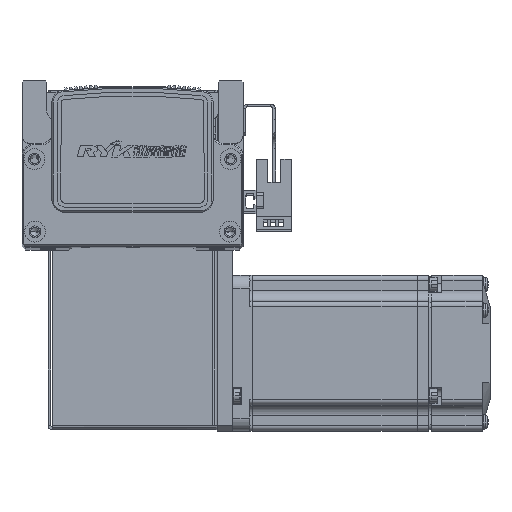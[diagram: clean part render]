
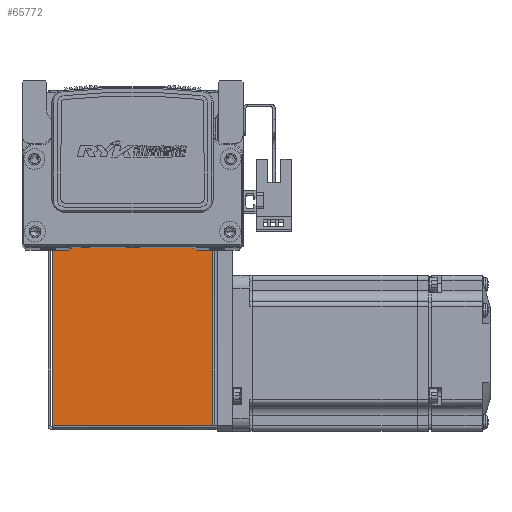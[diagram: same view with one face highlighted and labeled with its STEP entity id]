
A CAD part, top view. The second image highlights one B-rep face of the part: STEP entity #65772.
In plain terms, the highlighted planar face has unit normal (0, 0, 1).
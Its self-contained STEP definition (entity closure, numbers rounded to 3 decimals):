
#11635 = AXIS2_PLACEMENT_3D ( 'NONE', #55645, #55630, #55619 ) ;
#12747 = CARTESIAN_POINT ( 'NONE',  ( 30.763, 0.737, 35. ) ) ;
#12775 = DIRECTION ( 'NONE',  ( 0., 1., 0. ) ) ;
#12819 = CARTESIAN_POINT ( 'NONE',  ( -30.793, 0., 35. ) ) ;
#12829 = DIRECTION ( 'NONE',  ( 0., 1., 0. ) ) ;
#12847 = CARTESIAN_POINT ( 'NONE',  ( -32.5, 0.737, 35. ) ) ;
#12870 = DIRECTION ( 'NONE',  ( -1., 0., 0. ) ) ;
#13085 = CARTESIAN_POINT ( 'NONE',  ( 0., 72.5, 35. ) ) ;
#13110 = DIRECTION ( 'NONE',  ( -1., 0., 0. ) ) ;
#15270 = CARTESIAN_POINT ( 'NONE',  ( -30.793, 0.737, 35. ) ) ;
#15331 = CARTESIAN_POINT ( 'NONE',  ( 30.763, 72.5, 35. ) ) ;
#15368 = CARTESIAN_POINT ( 'NONE',  ( -30.793, 72.5, 35. ) ) ;
#15496 = CARTESIAN_POINT ( 'NONE',  ( 30.763, 0.737, 35. ) ) ;
#27677 = EDGE_CURVE ( 'NONE', #66653, #66578, #62857, .T. ) ;
#27682 = EDGE_CURVE ( 'NONE', #66653, #66541, #62845, .T. ) ;
#27690 = EDGE_CURVE ( 'NONE', #66541, #66588, #62810, .T. ) ;
#27728 = EDGE_CURVE ( 'NONE', #66578, #66588, #62960, .T. ) ;
#42702 = FACE_OUTER_BOUND ( 'NONE', #49870, .T. ) ;
#49870 = EDGE_LOOP ( 'NONE', ( #72491, #72587, #72543, #72585 ) ) ;
#55609 = PLANE ( 'NONE',  #11635 ) ;
#55619 = DIRECTION ( 'NONE',  ( -1., 0., 0. ) ) ;
#55630 = DIRECTION ( 'NONE',  ( 0., 0., -1. ) ) ;
#55645 = CARTESIAN_POINT ( 'NONE',  ( 0., 0., 35. ) ) ;
#62801 = VECTOR ( 'NONE', #12870, 1000. ) ;
#62810 = LINE ( 'NONE', #12819, #62824 ) ;
#62822 = VECTOR ( 'NONE', #12775, 1000. ) ;
#62824 = VECTOR ( 'NONE', #12829, 1000. ) ;
#62845 = LINE ( 'NONE', #12847, #62801 ) ;
#62857 = LINE ( 'NONE', #12747, #62822 ) ;
#62960 = LINE ( 'NONE', #13085, #62961 ) ;
#62961 = VECTOR ( 'NONE', #13110, 1000. ) ;
#65772 = ADVANCED_FACE ( 'NONE', ( #42702 ), #55609, .F. ) ;
#66541 = VERTEX_POINT ( 'NONE', #15270 ) ;
#66578 = VERTEX_POINT ( 'NONE', #15331 ) ;
#66588 = VERTEX_POINT ( 'NONE', #15368 ) ;
#66653 = VERTEX_POINT ( 'NONE', #15496 ) ;
#72491 = ORIENTED_EDGE ( 'NONE', *, *, #27677, .T. ) ;
#72543 = ORIENTED_EDGE ( 'NONE', *, *, #27690, .F. ) ;
#72585 = ORIENTED_EDGE ( 'NONE', *, *, #27682, .F. ) ;
#72587 = ORIENTED_EDGE ( 'NONE', *, *, #27728, .T. ) ;
